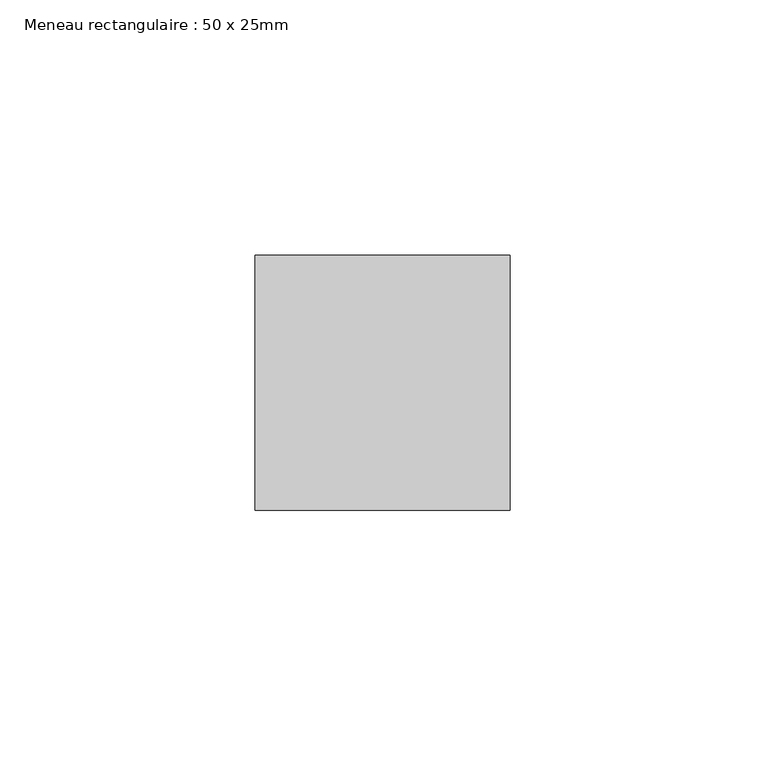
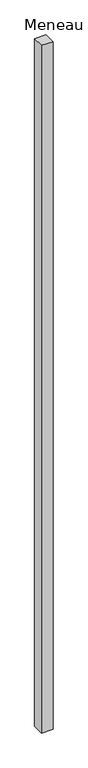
"""IFC4 building model written with IfcOpenShell, lengths in millimetres: member geometry, Meneau rectangulaire : 50 x 25mm."""

import ifcopenshell
import ifcopenshell.guid

model = None  # the IFC model being written
_history = None  # IfcOwnerHistory: only IFC2X3 demands one
_inside = {}  # id of a spatial element -> (the spatial element, [elements in it])
_under = {}  # id of a project, library or spatial element -> (it, [spatial elements below it])
_declared = {}  # id of a project -> (the project, [libraries it declares])
_typed = {}  # id of a type object -> (the type object, [elements of that type])
_made_of = {}  # id of a material, layer set ... -> (it, [elements and type objects made of it])


def new_model(schema):
    """Start an empty IFC model of exactly this schema.

    Asked for "IFC4X3", IfcOpenShell would pick the latest addendum, in which some entities
    have other attributes; the version numbers below select the first issue.
    IFC2X3 requires an IfcOwnerHistory on every rooted entity: one is made here for all.
    """
    global model, _history
    if schema == "IFC4X3":
        model = ifcopenshell.file(schema_version=(4, 3, 0, 0))
    else:
        model = ifcopenshell.file(schema=schema)
    _inside.clear()
    _under.clear()
    _declared.clear()
    _typed.clear()
    _made_of.clear()
    _history = None
    if model.schema == "IFC2X3":
        org = make("IfcOrganization", Name="unknown")
        user = make(
            "IfcPersonAndOrganization",
            ThePerson=make("IfcPerson", FamilyName="unknown"),
            TheOrganization=org,
        )
        app = make(
            "IfcApplication",
            ApplicationDeveloper=org,
            Version="unknown",
            ApplicationFullName="unknown",
            ApplicationIdentifier="unknown",
        )
        _history = make(
            "IfcOwnerHistory",
            OwningUser=user,
            OwningApplication=app,
            ChangeAction="ADDED",
            CreationDate=0,
        )
    return model


def make(cls, **values):
    """One entity of the class cls with the attributes given. An attribute that is None is left unset."""
    return model.create_entity(
        cls, **{name: value for name, value in values.items() if value is not None}
    )


def rooted(cls, **values):
    """An entity with a GlobalId (a new one), such as an element, a storey or a relation."""
    return make(cls, GlobalId=ifcopenshell.guid.new(), OwnerHistory=_history, **values)


def si_unit(unit_type, name, prefix=None):
    """IfcSIUnit, for example si_unit("LENGTHUNIT", "METRE", prefix="MILLI")."""
    return make("IfcSIUnit", UnitType=unit_type, Prefix=prefix, Name=name)


def assignment(units):
    """IfcUnitAssignment: the units of a project."""
    return None if units is None else make("IfcUnitAssignment", Units=units)


def point(xyz):
    """IfcCartesianPoint."""
    return None if xyz is None else make("IfcCartesianPoint", Coordinates=xyz)


def direction(xyz):
    """IfcDirection."""
    return None if xyz is None else make("IfcDirection", DirectionRatios=xyz)


def frame(location, z_axis=None, x_axis=None):
    """IfcAxis2Placement3D, a coordinate frame: its origin and axes. An axis left out is left unset."""
    return make(
        "IfcAxis2Placement3D",
        Location=point(location),
        Axis=direction(z_axis),
        RefDirection=direction(x_axis),
    )


def origin():
    """The frame at (0, 0, 0) with its axes left unset."""
    return frame((0.0, 0.0, 0.0))


def place(relative_to, where):
    """IfcLocalPlacement: puts the frame where relative to a parent placement (None: the world)."""
    return make(
        "IfcLocalPlacement", PlacementRelTo=relative_to, RelativePlacement=where
    )


def context(
    kind, dimensions, precision=None, world=None, true_north=None, identifier=None
):
    """IfcGeometricRepresentationContext, for example the 3D "Model" context."""
    return make(
        "IfcGeometricRepresentationContext",
        ContextIdentifier=identifier,
        ContextType=kind,
        CoordinateSpaceDimension=dimensions,
        Precision=precision,
        WorldCoordinateSystem=world,
        TrueNorth=true_north,
    )


def project(units=None, contexts=None):
    """IfcProject with its units and contexts."""
    return rooted(
        "IfcProject",
        Name="project",
        RepresentationContexts=contexts,
        UnitsInContext=assignment(units),
    )


def spatial(cls, under=None, at=None, **own):
    """A site, building, storey or space (cls), placed at a placement, below another one or the project."""
    s = rooted(cls, ObjectPlacement=at, **own)
    if under is not None:
        _under.setdefault(under.id(), (under, []))[1].append(s)
    return s


def polyline(points):
    """IfcPolyline through the points."""
    return make("IfcPolyline", Points=[point(p) for p in points])


def outline(outer, holes=None, kind="AREA"):
    """IfcArbitraryClosedProfileDef: a profile drawn as a closed curve; with holes, ...WithVoids."""
    if holes is None:
        return make("IfcArbitraryClosedProfileDef", ProfileType=kind, OuterCurve=outer)
    return make(
        "IfcArbitraryProfileDefWithVoids",
        ProfileType=kind,
        OuterCurve=outer,
        InnerCurves=holes,
    )


def extrude(swept, where, along, depth):
    """IfcExtrudedAreaSolid: the profile swept, set in the frame where, extruded along a direction by depth."""
    return make(
        "IfcExtrudedAreaSolid",
        SweptArea=swept,
        Position=where,
        ExtrudedDirection=direction(along),
        Depth=depth,
    )


def shape(context_of_items, identifier, shape_type, items):
    """IfcShapeRepresentation: the items that make up one representation, for example the "Body"."""
    return make(
        "IfcShapeRepresentation",
        ContextOfItems=context_of_items,
        RepresentationIdentifier=identifier,
        RepresentationType=shape_type,
        Items=items,
    )


def source(mapping_origin, context_of_items, identifier, shape_type, items):
    """IfcRepresentationMap: a shape defined once, which mapped items show again and again."""
    return make(
        "IfcRepresentationMap",
        MappingOrigin=mapping_origin,
        MappedRepresentation=shape(context_of_items, identifier, shape_type, items),
    )


def transform(
    local_origin,
    x_axis=None,
    y_axis=None,
    z_axis=None,
    scale=None,
    scale2=None,
    scale3=None,
    uniform=True,
):
    """IfcCartesianTransformationOperator3D, or its non-uniform kind. x_axis, y_axis, z_axis: its Axis1, 2, 3."""
    if uniform:
        return make(
            "IfcCartesianTransformationOperator3D",
            Axis1=direction(x_axis),
            Axis2=direction(y_axis),
            LocalOrigin=point(local_origin),
            Scale=scale,
            Axis3=direction(z_axis),
        )
    return make(
        "IfcCartesianTransformationOperator3DnonUniform",
        Axis1=direction(x_axis),
        Axis2=direction(y_axis),
        LocalOrigin=point(local_origin),
        Scale=scale,
        Axis3=direction(z_axis),
        Scale2=scale2,
        Scale3=scale3,
    )


def mapped(mapping_source, mapping_target):
    """IfcMappedItem: shows the shape of a source again, moved by a transform."""
    return make(
        "IfcMappedItem", MappingSource=mapping_source, MappingTarget=mapping_target
    )


def made_of(thing, what):
    """Note that an element or type object is made of a material, layer set ...; save() writes the relation."""
    if what is not None:
        _made_of.setdefault(what.id(), (what, []))[1].append(thing)
    return thing


def element(
    cls,
    number,
    at=None,
    inside=None,
    cuts=None,
    type_object=None,
    material=None,
    context=None,
    identifier="Body",
    shape_type=None,
    held_by="IfcProductDefinitionShape",
    body=None,
    shapes=None,
    **own,
):
    """One element of the class cls, such as IfcWall. Its Tag is "e" and its number.

    at: its placement. inside: the storey or other place that contains it. cuts: it is an
    opening in that element (IfcRelVoidsElement). A single representation is given by context,
    identifier, shape_type and body (its items); several are given by shapes. held_by: the class
    of the entity that holds the representations. save() writes the other relations.
    """
    e = rooted(cls, Tag="e%d" % number, ObjectPlacement=at, **own)
    if body is not None:
        shapes = [shape(context, identifier, shape_type, body)]
    if shapes is not None:
        e.Representation = make(held_by, Representations=shapes)
    if inside is not None:
        _inside.setdefault(inside.id(), (inside, []))[1].append(e)
    if cuts is not None:
        rooted(
            "IfcRelVoidsElement", RelatingBuildingElement=cuts, RelatedOpeningElement=e
        )
    if type_object is not None:
        _typed.setdefault(type_object.id(), (type_object, []))[1].append(e)
    return made_of(e, material)


def aggregate(whole, parts):
    """IfcRelAggregates: a whole, such as a stair, and the parts it consists of."""
    return rooted("IfcRelAggregates", RelatingObject=whole, RelatedObjects=parts)


def save(model, path):
    """Write the relations noted so far, then the file.

    IfcRelAggregates (storeys below a building ...), IfcRelContainedInSpatialStructure (elements
    in a storey), IfcRelDefinesByType, IfcRelAssociatesMaterial and IfcRelDeclares: one each for
    every whole, place, type object, material and project.
    """
    for whole, parts in _under.values():
        aggregate(whole, parts)
    for where, things in _inside.values():
        rooted(
            "IfcRelContainedInSpatialStructure",
            RelatedElements=things,
            RelatingStructure=where,
        )
    for kind, things in _typed.values():
        rooted("IfcRelDefinesByType", RelatedObjects=things, RelatingType=kind)
    for what, things in _made_of.values():
        rooted("IfcRelAssociatesMaterial", RelatedObjects=things, RelatingMaterial=what)
    for by, libraries in _declared.values():
        rooted("IfcRelDeclares", RelatingContext=by, RelatedDefinitions=libraries)
    model.write(path)


def meneau_rectangulaire_50_x_25mm_c5b33444(model_context):
    return source(origin(), model_context, "Body", "SweptSolid", [
        extrude(outline(polyline([(25.0, 0.0), (25.0, -50.0), (-25.0, -50.0), (-25.0, 0.0), (25.0, 0.0)])), frame((0.0, 0.0, -3138.884107), z_axis=(0.0, 0.0, 1.0), x_axis=(1.0, 0.0, 0.0)), (0.0, 0.0, 1.0), 3138.884107),
    ])


if __name__ == "__main__":
    model = new_model("IFC4")
    model_context = context("Model", 3, world=origin())
    ifc_project = project(units=[si_unit("LENGTHUNIT", "METRE", prefix="MILLI")], contexts=[model_context])
    site = spatial("IfcSite", under=ifc_project)
    building = spatial("IfcBuilding", under=site)
    placement = place(None, origin())
    meneau_rectangulaire_50_x_25mm_shape = meneau_rectangulaire_50_x_25mm_c5b33444(model_context)
    element("IfcMember", 1, ObjectType="Meneau rectangulaire : 50 x 25mm", at=placement, inside=building, context=model_context, shape_type="MappedRepresentation", body=[
        mapped(meneau_rectangulaire_50_x_25mm_shape, transform((0.0, 0.0, 0.0), x_axis=(1.0, 0.0, 0.0), y_axis=(0.0, 1.0, 0.0), z_axis=(0.0, 0.0, 1.0))),
    ])
    save(model, "model.ifc")
